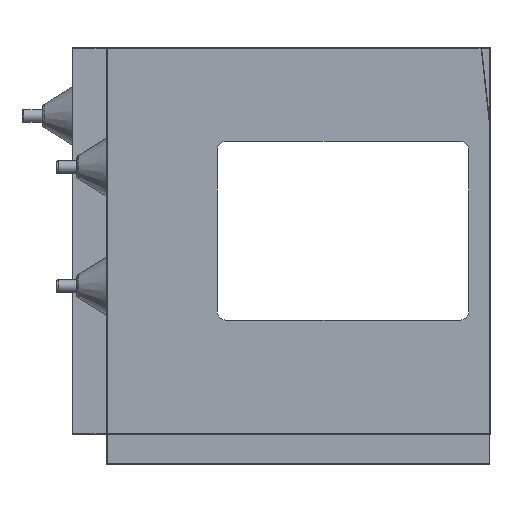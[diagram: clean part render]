
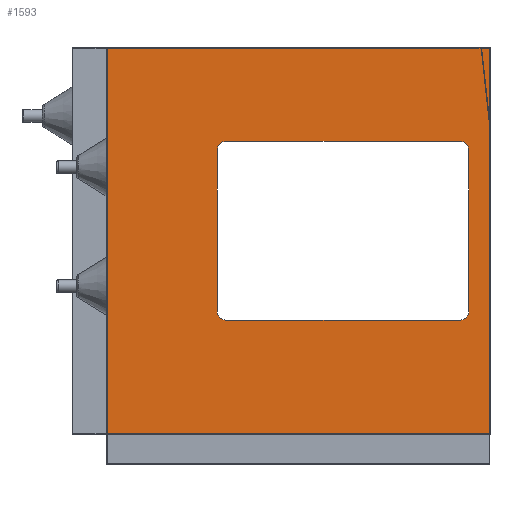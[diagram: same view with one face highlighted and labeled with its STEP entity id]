
A CAD part, left-side view. The second image highlights one B-rep face of the part: STEP entity #1593.
In plain terms, the highlighted planar face has unit normal (-1, 0, 0).
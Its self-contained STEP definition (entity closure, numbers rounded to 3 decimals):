
#48 = EDGE_CURVE ( 'NONE', #838, #837, #918, .T. ) ;
#182 = VECTOR ( 'NONE', #1666, 1000. ) ;
#257 = EDGE_CURVE ( 'NONE', #837, #813, #1050, .T. ) ;
#258 = EDGE_CURVE ( 'NONE', #797, #813, #1052, .T. ) ;
#259 = EDGE_CURVE ( 'NONE', #784, #800, #1042, .T. ) ;
#260 = EDGE_CURVE ( 'NONE', #783, #784, #1054, .T. ) ;
#261 = EDGE_CURVE ( 'NONE', #782, #783, #1057, .T. ) ;
#262 = EDGE_CURVE ( 'NONE', #806, #782, #1059, .T. ) ;
#263 = EDGE_CURVE ( 'NONE', #803, #806, #1060, .T. ) ;
#264 = EDGE_CURVE ( 'NONE', #805, #803, #1062, .T. ) ;
#265 = EDGE_CURVE ( 'NONE', #799, #805, #1063, .T. ) ;
#266 = EDGE_CURVE ( 'NONE', #800, #799, #1065, .T. ) ;
#271 = EDGE_CURVE ( 'NONE', #838, #797, #1074, .T. ) ;
#411 = AXIS2_PLACEMENT_3D ( 'NONE', #1796, #1797, #1798 ) ;
#412 = AXIS2_PLACEMENT_3D ( 'NONE', #1802, #1803, #1804 ) ;
#413 = AXIS2_PLACEMENT_3D ( 'NONE', #1807, #1809, #1810 ) ;
#414 = AXIS2_PLACEMENT_3D ( 'NONE', #1813, #1814, #1815 ) ;
#591 = ORIENTED_EDGE ( 'NONE', *, *, #266, .T. ) ;
#592 = ORIENTED_EDGE ( 'NONE', *, *, #265, .T. ) ;
#593 = ORIENTED_EDGE ( 'NONE', *, *, #264, .T. ) ;
#594 = ORIENTED_EDGE ( 'NONE', *, *, #263, .T. ) ;
#595 = ORIENTED_EDGE ( 'NONE', *, *, #262, .T. ) ;
#596 = ORIENTED_EDGE ( 'NONE', *, *, #261, .T. ) ;
#597 = ORIENTED_EDGE ( 'NONE', *, *, #260, .T. ) ;
#598 = ORIENTED_EDGE ( 'NONE', *, *, #259, .T. ) ;
#599 = ORIENTED_EDGE ( 'NONE', *, *, #258, .T. ) ;
#600 = ORIENTED_EDGE ( 'NONE', *, *, #257, .F. ) ;
#601 = ORIENTED_EDGE ( 'NONE', *, *, #48, .F. ) ;
#602 = ORIENTED_EDGE ( 'NONE', *, *, #271, .T. ) ;
#782 = VERTEX_POINT ( 'NONE', #2973 ) ;
#783 = VERTEX_POINT ( 'NONE', #2974 ) ;
#784 = VERTEX_POINT ( 'NONE', #2975 ) ;
#797 = VERTEX_POINT ( 'NONE', #2987 ) ;
#799 = VERTEX_POINT ( 'NONE', #2989 ) ;
#800 = VERTEX_POINT ( 'NONE', #2990 ) ;
#803 = VERTEX_POINT ( 'NONE', #2992 ) ;
#805 = VERTEX_POINT ( 'NONE', #2994 ) ;
#806 = VERTEX_POINT ( 'NONE', #2995 ) ;
#813 = VERTEX_POINT ( 'NONE', #3002 ) ;
#837 = VERTEX_POINT ( 'NONE', #3024 ) ;
#838 = VERTEX_POINT ( 'NONE', #3025 ) ;
#918 = LINE ( 'NONE', #1665, #182 ) ;
#1042 = CIRCLE ( 'NONE', #411, 25. ) ;
#1050 = LINE ( 'NONE', #1786, #1053 ) ;
#1052 = LINE ( 'NONE', #1790, #1055 ) ;
#1053 = VECTOR ( 'NONE', #1789, 1000. ) ;
#1054 = LINE ( 'NONE', #1795, #1058 ) ;
#1055 = VECTOR ( 'NONE', #1792, 1000. ) ;
#1057 = CIRCLE ( 'NONE', #412, 25. ) ;
#1058 = VECTOR ( 'NONE', #1791, 1000. ) ;
#1059 = LINE ( 'NONE', #1793, #1061 ) ;
#1060 = CIRCLE ( 'NONE', #413, 25. ) ;
#1061 = VECTOR ( 'NONE', #1794, 1000. ) ;
#1062 = LINE ( 'NONE', #1800, #1064 ) ;
#1063 = CIRCLE ( 'NONE', #414, 25. ) ;
#1064 = VECTOR ( 'NONE', #1801, 1000. ) ;
#1065 = LINE ( 'NONE', #1805, #1067 ) ;
#1067 = VECTOR ( 'NONE', #1806, 1000. ) ;
#1074 = LINE ( 'NONE', #1827, #1077 ) ;
#1077 = VECTOR ( 'NONE', #1829, 1000. ) ;
#1347 = FACE_BOUND ( 'NONE', #2448, .T. ) ;
#1364 = FACE_OUTER_BOUND ( 'NONE', #2391, .T. ) ;
#1593 = ADVANCED_FACE ( 'NONE', ( #1347, #1364 ), #3317, .F. ) ;
#1665 = CARTESIAN_POINT ( 'NONE',  ( -1013.875, 1144., 576.875 ) ) ;
#1666 = DIRECTION ( 'NONE',  ( 0., 0., 1. ) ) ;
#1786 = CARTESIAN_POINT ( 'NONE',  ( -1013.875, 1144., 576.875 ) ) ;
#1789 = DIRECTION ( 'NONE',  ( 0., -1., 0. ) ) ;
#1790 = CARTESIAN_POINT ( 'NONE',  ( -1013.875, 0., 576.875 ) ) ;
#1791 = DIRECTION ( 'NONE',  ( 0., 0., 1. ) ) ;
#1792 = DIRECTION ( 'NONE',  ( 0., 0., 1. ) ) ;
#1793 = CARTESIAN_POINT ( 'NONE',  ( -1013.875, 1144., -236.125 ) ) ;
#1794 = DIRECTION ( 'NONE',  ( 0., 1., 0. ) ) ;
#1795 = CARTESIAN_POINT ( 'NONE',  ( -1013.875, 813.5, 576.875 ) ) ;
#1796 = CARTESIAN_POINT ( 'NONE',  ( -1013.875, 788.5, 271.875 ) ) ;
#1797 = DIRECTION ( 'NONE',  ( 1., 0., 0. ) ) ;
#1798 = DIRECTION ( 'NONE',  ( 0., 0., -1. ) ) ;
#1800 = CARTESIAN_POINT ( 'NONE',  ( -1013.875, 63.5, 576.875 ) ) ;
#1801 = DIRECTION ( 'NONE',  ( 0., 0., -1. ) ) ;
#1802 = CARTESIAN_POINT ( 'NONE',  ( -1013.875, 788.5, -211.125 ) ) ;
#1803 = DIRECTION ( 'NONE',  ( 1., 0., 0. ) ) ;
#1804 = DIRECTION ( 'NONE',  ( 0., 0., -1. ) ) ;
#1805 = CARTESIAN_POINT ( 'NONE',  ( -1013.875, 1144., 296.875 ) ) ;
#1806 = DIRECTION ( 'NONE',  ( 0., -1., 0. ) ) ;
#1807 = CARTESIAN_POINT ( 'NONE',  ( -1013.875, 88.5, -211.125 ) ) ;
#1809 = DIRECTION ( 'NONE',  ( 1., 0., 0. ) ) ;
#1810 = DIRECTION ( 'NONE',  ( 0., 0., -1. ) ) ;
#1813 = CARTESIAN_POINT ( 'NONE',  ( -1013.875, 88.5, 271.875 ) ) ;
#1814 = DIRECTION ( 'NONE',  ( 1., 0., 0. ) ) ;
#1815 = DIRECTION ( 'NONE',  ( 0., 0., -1. ) ) ;
#1827 = CARTESIAN_POINT ( 'NONE',  ( -1013.875, 1144., -576.875 ) ) ;
#1829 = DIRECTION ( 'NONE',  ( 0., -1., 0. ) ) ;
#2391 = EDGE_LOOP ( 'NONE', ( #599, #600, #601, #602 ) ) ;
#2448 = EDGE_LOOP ( 'NONE', ( #591, #592, #593, #594, #595, #596, #597, #598 ) ) ;
#2815 = AXIS2_PLACEMENT_3D ( 'NONE', #3315, #3314, #3319 ) ;
#2973 = CARTESIAN_POINT ( 'NONE',  ( -1013.875, 788.5, -236.125 ) ) ;
#2974 = CARTESIAN_POINT ( 'NONE',  ( -1013.875, 813.5, -211.125 ) ) ;
#2975 = CARTESIAN_POINT ( 'NONE',  ( -1013.875, 813.5, 271.875 ) ) ;
#2987 = CARTESIAN_POINT ( 'NONE',  ( -1013.875, 0., -576.875 ) ) ;
#2989 = CARTESIAN_POINT ( 'NONE',  ( -1013.875, 88.5, 296.875 ) ) ;
#2990 = CARTESIAN_POINT ( 'NONE',  ( -1013.875, 788.5, 296.875 ) ) ;
#2992 = CARTESIAN_POINT ( 'NONE',  ( -1013.875, 63.5, -211.125 ) ) ;
#2994 = CARTESIAN_POINT ( 'NONE',  ( -1013.875, 63.5, 271.875 ) ) ;
#2995 = CARTESIAN_POINT ( 'NONE',  ( -1013.875, 88.5, -236.125 ) ) ;
#3002 = CARTESIAN_POINT ( 'NONE',  ( -1013.875, 0., 576.875 ) ) ;
#3024 = CARTESIAN_POINT ( 'NONE',  ( -1013.875, 1144., 576.875 ) ) ;
#3025 = CARTESIAN_POINT ( 'NONE',  ( -1013.875, 1144., -576.875 ) ) ;
#3314 = DIRECTION ( 'NONE',  ( 1., 0., 0. ) ) ;
#3315 = CARTESIAN_POINT ( 'NONE',  ( -1013.875, 1144., 576.875 ) ) ;
#3317 = PLANE ( 'NONE',  #2815 ) ;
#3319 = DIRECTION ( 'NONE',  ( 0., 0., -1. ) ) ;
